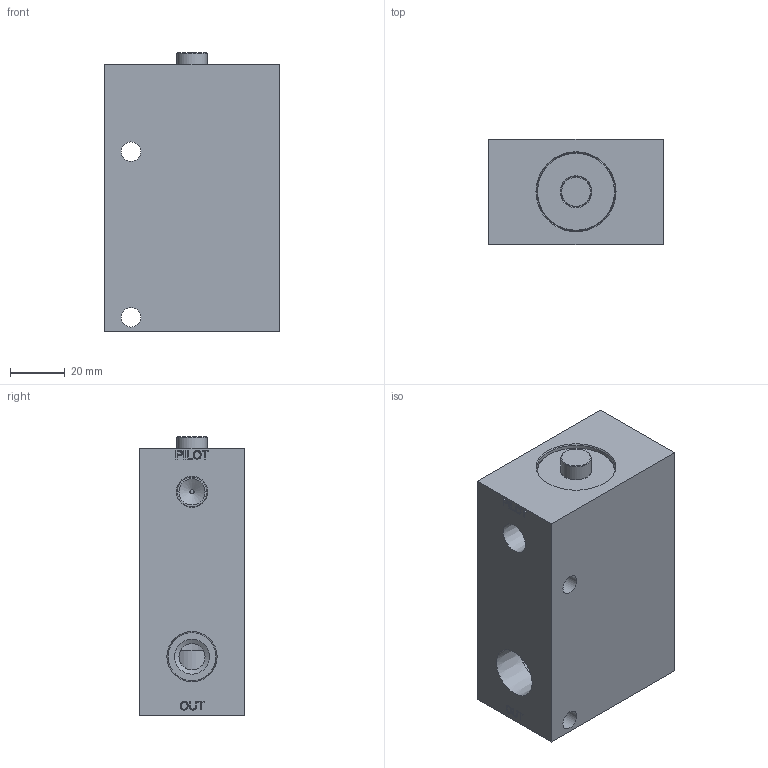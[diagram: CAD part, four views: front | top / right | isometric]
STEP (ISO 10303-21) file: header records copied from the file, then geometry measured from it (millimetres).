
FILE_DESCRIPTION(/* description */ (''),/* implementation_level */ '2;1');
FILE_NAME(/* name */ 'L:\ALADCO\Advertising\3D Content\Valves\Step Files - 2014-11-19 thru Present\30500X.stp',/* time_stamp */ '2014-11-19T14:15:25-06:00',/* author */ ('dmatz'),/* organization */ ('Aladdin Eng. & Manf. Inc.'),/* preprocessor_version */ 'ST-DEVELOPER v15.2',/* originating_system */ 'Autodesk Inventor 2014',/* authorisation */ '0 in^3');
FILE_SCHEMA (('AUTOMOTIVE_DESIGN { 1 0 10303 214 3 1 1 }'));
Length unit declared in the file: inch
Products named in the file (6): 311041; 301076; 311015; 311021; 301015; 305001
Bounding box: 63.5 x 38.1 x 101.45 mm (x, y, z)
Volume: 197363.4 mm3; surface area: 43026.8 mm2
Topology: 5 solids, 5 shells, 202 faces, 456 edges, 298 vertices
Faces by surface type: plane 104, cylinder 36, bspline 26, cone 23, torus 13
Full cylindrical faces by diameter (mm): 1.499 x1, 3.175 x1, 5.156 x1, 6.35 x2, 6.629 x1, 7.112 x2, 9.144 x1, 9.525 x3, 10.719 x1, 11.049 x2, 11.1 x1, 12.7 x3, 13.081 x1, 13.462 x1, 15.081 x1, 17.475 x2, 17.577 x1, 22.149 x1, 24.409 x1, 24.435 x1, 25.4 x2, 28.524 x4, 28.575 x2
Entity records: 5839 total; most frequent: CARTESIAN_POINT 1495, DIRECTION 780, ORIENTED_EDGE 724, EDGE_CURVE 362, EDGE_LOOP 324, AXIS2_PLACEMENT_3D 290, VERTEX_POINT 276, ADVANCED_FACE 202
